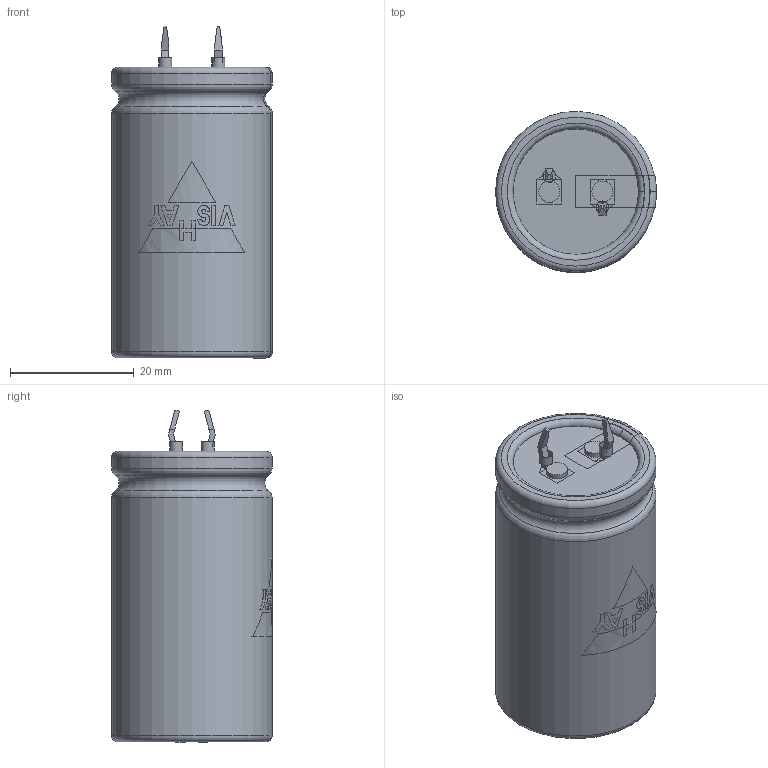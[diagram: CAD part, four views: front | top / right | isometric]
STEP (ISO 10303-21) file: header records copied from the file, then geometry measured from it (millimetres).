
FILE_DESCRIPTION(('FreeCAD Model'),'2;1');
FILE_NAME( 'C:/Users/Gebruiker/Documents/FreeCAD/SnapIn_25x45_2pin_5.8.step', '2020-11-12T20:09:07',('Author'),(''), 'Open CASCADE STEP processor 6.8','FreeCAD','Unknown');
FILE_SCHEMA(('AUTOMOTIVE_DESIGN_CC2 { 1 2 10303 214 -1 1 5 4 }'));
Length unit declared in the file: millimetre
Products named in the file (9): ASSEMBLY; TerminalMin; TerminalPlus; PCBHoles; Disc; BottomInsulation; Can3D; InkMinusBar; InkLogo
Assembly tree (8 placements, depth 2):
  ASSEMBLY
    TerminalMin
    TerminalPlus
    PCBHoles
    Disc
    BottomInsulation
    Can3D
    InkMinusBar
    InkLogo
Bounding box: 26.05 x 26.05 x 53.75 mm (x, y, z)
Volume: 27919.4 mm3; surface area: 11071.1 mm2
Topology: 15 solids, 15 shells, 203 faces, 515 edges, 338 vertices
Faces by surface type: plane 153, cylinder 32, torus 18
Full cylindrical faces by diameter (mm): 2 x2, 2.1 x2, 3.4 x2, 20.3 x1, 20.8 x2, 26 x2
Entity records: 21362 total; most frequent: CARTESIAN_POINT 9909, DIRECTION 1788, ORIENTED_EDGE 1030, PCURVE 1030, DEFINITIONAL_REPRESENTATION 1030, LINE 1006, VECTOR 1006, EDGE_CURVE 515
